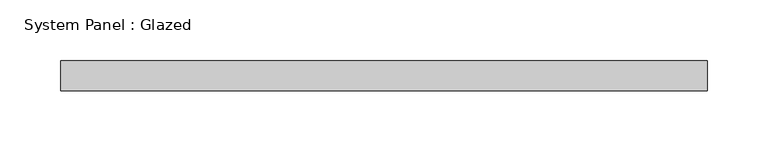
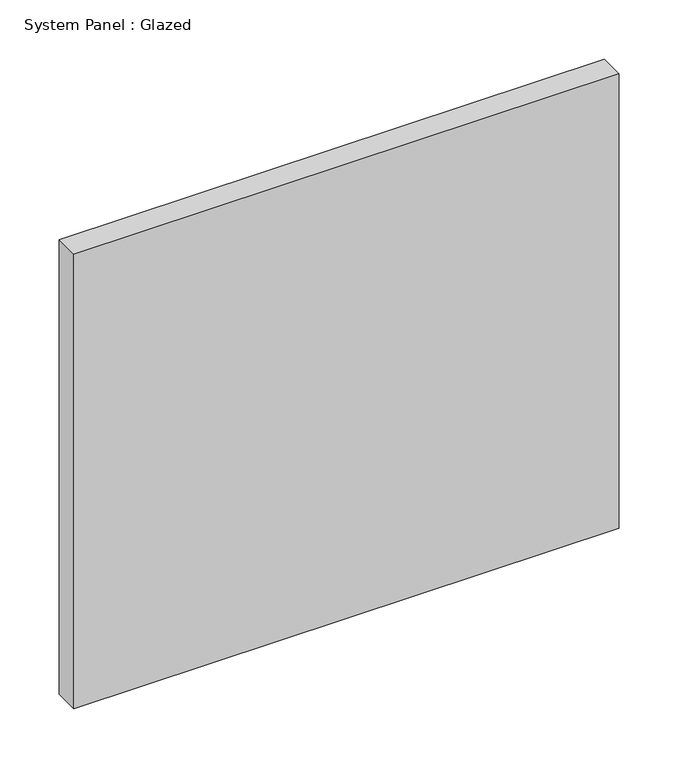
"""IFC4 building model written with IfcOpenShell, lengths in millimetres: plate geometry, System Panel : Glazed."""

from ifc_helpers import new_model, si_unit, origin, origin_with_axes, place, context, project, spatial, polyline, outline, extrude, source, transform, mapped, element, save


def system_panel_glazed_d6d17fb9(model_context):
    return source(origin(), model_context, "Body", "SweptSolid", [
        extrude(outline(polyline([(266.7200031, -12.5), (-266.7200031, -12.5), (-266.7200031, 12.5), (266.7200031, 12.5), (266.7200031, -12.5)])), origin_with_axes(), (0.0, 0.0, 1.0), 470.0),
    ])


if __name__ == "__main__":
    model = new_model("IFC4")
    model_context = context("Model", 3, world=origin())
    ifc_project = project(units=[si_unit("LENGTHUNIT", "METRE", prefix="MILLI")], contexts=[model_context])
    site = spatial("IfcSite", under=ifc_project)
    building = spatial("IfcBuilding", under=site)
    placement = place(None, origin())
    system_panel_glazed_shape = system_panel_glazed_d6d17fb9(model_context)
    element("IfcPlate", 1, ObjectType="System Panel : Glazed", at=placement, inside=building, context=model_context, shape_type="MappedRepresentation", body=[
        mapped(system_panel_glazed_shape, transform((0.0, 0.0, 0.0), x_axis=(1.0, 0.0, 0.0), y_axis=(0.0, 1.0, 0.0), z_axis=(0.0, 0.0, 1.0))),
    ])
    save(model, "model.ifc")
